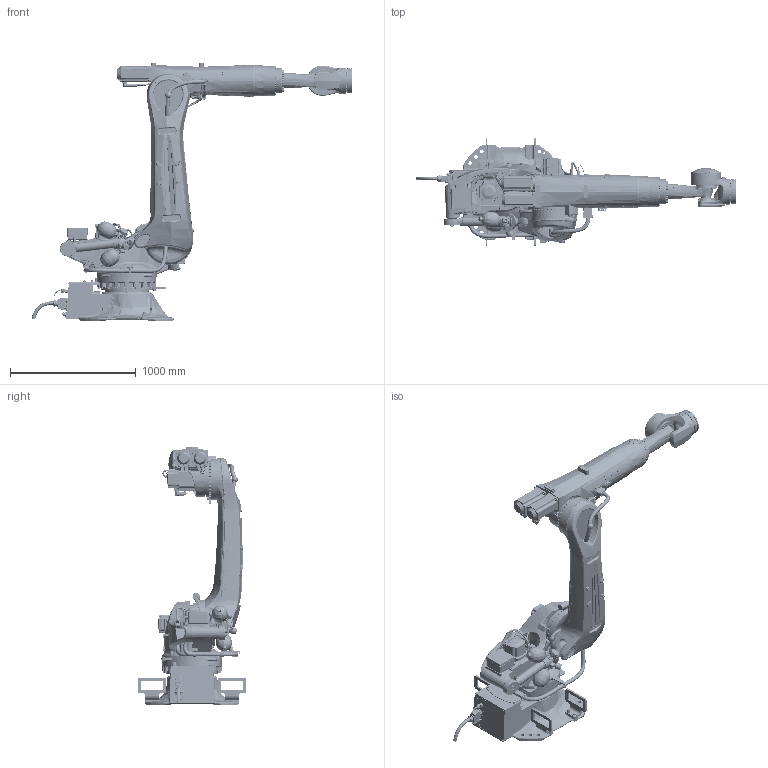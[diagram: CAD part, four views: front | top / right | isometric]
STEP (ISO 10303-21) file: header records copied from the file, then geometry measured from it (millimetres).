
FILE_DESCRIPTION(/* description */ (''),/* implementation_level */ '2;1');
FILE_NAME(/* name */ 'KR_300_R2700-2_F_V00.stp',/* time_stamp */ '2021-12-14T14:31:23+01:00',/* author */ (''),/* organization */ (''),/* preprocessor_version */ 'ST-DEVELOPER v16.7',/* originating_system */ 'SIEMENS PLM Software NX 1919',/* authorisation */ '');
FILE_SCHEMA (('AUTOMOTIVE_DESIGN { 1 0 10303 214 3 1 1 1 }'));
Products named in the file (1): Pfen43C419573ih7
Bounding box: 2543.76 x 862 x 2053 mm (x, y, z)
Volume: 209620083.1 mm3; surface area: 10413266.9 mm2
Topology: 52 solids, 77 shells, 10846 faces, 26765 edges, 16633 vertices
Faces by surface type: plane 3332, cylinder 2504, bspline 2496, torus 1479, cone 779, sphere 154, extrusion 97, revolution 5
Full cylindrical faces by diameter (mm): 2 x1, 3.7 x2, 4 x2, 4.3 x2, 4.8 x2, 5 x10, 5.3 x4, 5.4 x1, 5.5 x10, 6 x38, 6.4 x18, 6.5 x1, 6.6 x2, 6.8 x8, 7 x17, 8 x37, 8.4 x9, 8.5 x14, 8.7 x2, 8.9 x1, 9 x13, 9.5 x2, 9.8 x4, 10 x68, 11 x3, 12 x18, 12.5 x1, 13 x57, 14 x16, 15 x6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
Entity records: 476351 total; most frequent: CARTESIAN_POINT 231318, ORIENTED_EDGE 48416, DIRECTION 40251, EDGE_CURVE 24208, AXIS2_PLACEMENT_3D 16804, VERTEX_POINT 15838, EDGE_LOOP 13389, ADVANCED_FACE 10843
